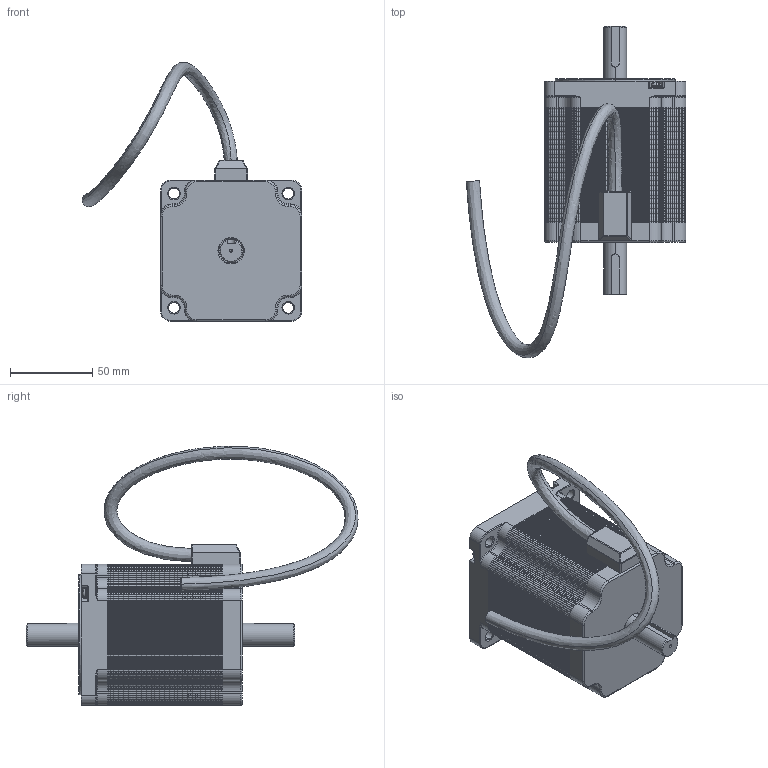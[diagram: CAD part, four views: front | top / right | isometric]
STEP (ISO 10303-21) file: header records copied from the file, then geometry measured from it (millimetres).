
FILE_DESCRIPTION (( 'STEP AP214' ), '1' );
FILE_NAME ('Nema 34 Stepper Motor shaft D14 length 98 key_DS.STEP', '2020-11-16T06:38:31', ( 'Moofasta' ), ( '' ), 'SwSTEP 2.0', 'SolidWorks 2020', '' );
FILE_SCHEMA (( 'AUTOMOTIVE_DESIGN' ));
Length unit declared in the file: millimetre
Products named in the file (1): Nema 34  Stepper Motor shaft D14 length 98 key_DS
Bounding box: 133.66 x 202.31 x 158.16 mm (x, y, z)
Volume: 679179.6 mm3; surface area: 971727.4 mm2
Topology: 83 solids, 83 shells, 5919 faces, 13598 edges, 7832 vertices
Faces by surface type: plane 2936, cone 1683, cylinder 1048, bspline 126, torus 103, sphere 23
Entity records: 229372 total; most frequent: CARTESIAN_POINT 35582, DIRECTION 28703, ORIENTED_EDGE 27114, EDGE_CURVE 13557, AXIS2_PLACEMENT_3D 9709, LINE 9285, VECTOR 9285, VERTEX_POINT 7832
